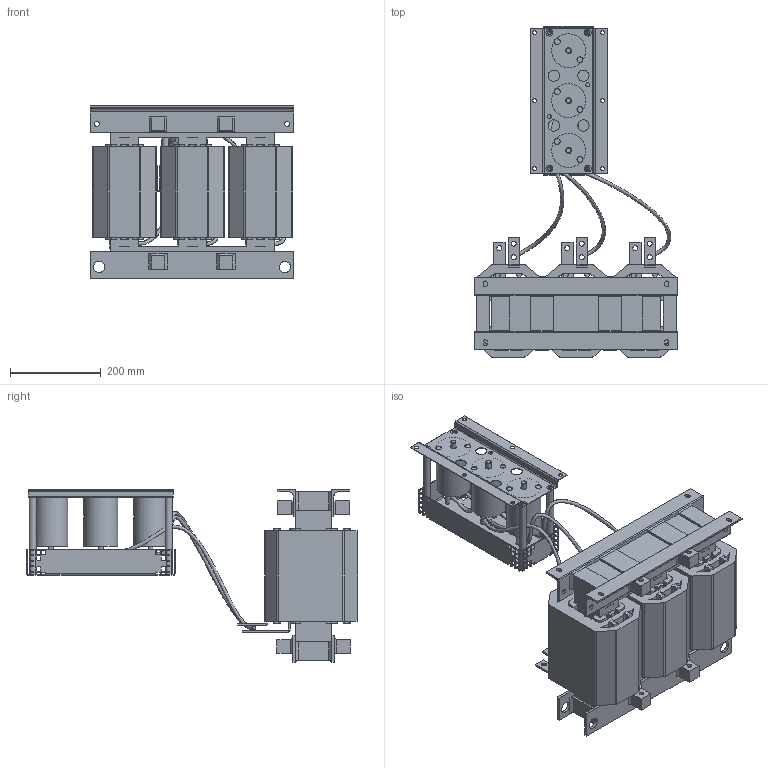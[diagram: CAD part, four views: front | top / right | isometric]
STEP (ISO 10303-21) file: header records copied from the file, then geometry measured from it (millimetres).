
FILE_DESCRIPTION((''),'2;1');
FILE_NAME('P:\Construction\Filter_Marketing\FN\FN5040\FN5040-180-99\FN5040-180-99.stp','2014-10-14T10:24:23',('samuel.meier'),(''),'Autodesk Inventor 2013','Autodesk Inventor 2013','');
FILE_SCHEMA(('AUTOMOTIVE_DESIGN { 1 2 10303 214 0 1 1 1 }'));
Length unit declared in the file: millimetre
Products named in the file (4): FN5040-180-99; INDUCTOR; CAPS; CABLES
Assembly tree (3 placements, depth 2):
  FN5040-180-99
    INDUCTOR
    CAPS
    CABLES
Bounding box: 450 x 730.41 x 381 mm (x, y, z)
Volume: 20968012.4 mm3; surface area: 2185740.9 mm2
Topology: 2 solids, 20 shells, 1702 faces, 5308 edges, 3386 vertices
Faces by surface type: plane 1326, cylinder 352, cone 18, bspline 6
Full cylindrical faces by diameter (mm): 6.647 x8, 9 x13, 10 x16, 11 x13, 12 x3, 13 x9, 15 x4, 20 x1, 25 x4, 75 x3
Entity records: 111984 total; most frequent: CARTESIAN_POINT 62075, ORIENTED_EDGE 10338, DIRECTION 9441, EDGE_CURVE 5181, VECTOR 4315, LINE 4315, VERTEX_POINT 3351, AXIS2_PLACEMENT_3D 2563
